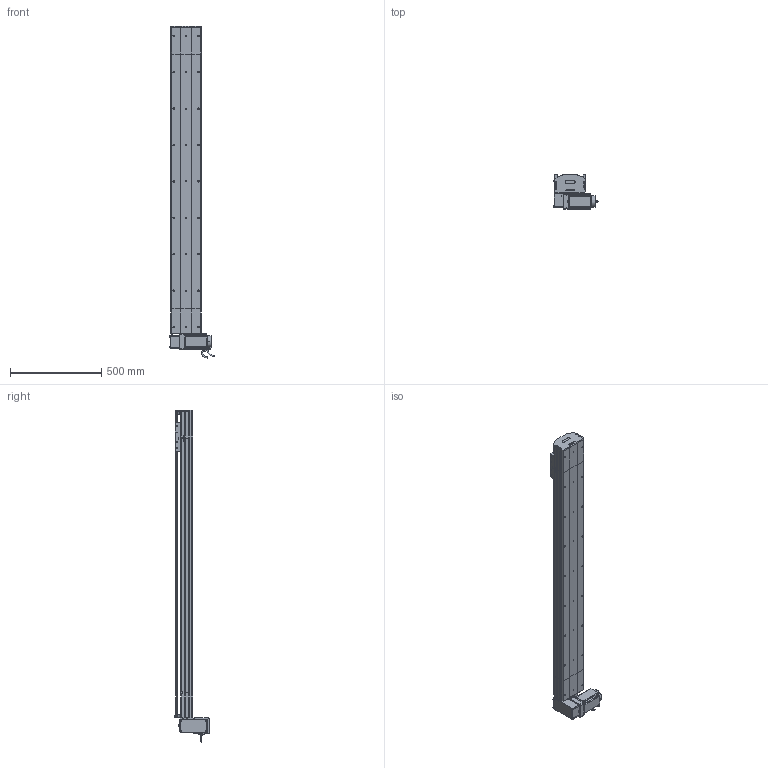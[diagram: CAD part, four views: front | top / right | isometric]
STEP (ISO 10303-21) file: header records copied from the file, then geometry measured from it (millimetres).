
FILE_DESCRIPTION (( 'STEP AP214' ), '1' );
FILE_NAME ('D17 TBH RU S1400.STEP', '2010-06-30T08:03:46', ( 'Christophe Gaillard' ), ( 'SGA' ), 'SwSTEP 2.0', 'SolidWorks 2010', '' );
FILE_SCHEMA (( 'AUTOMOTIVE_DESIGN' ));
Length unit declared in the file: millimetre
Products named in the file (40): guide D17; Chariot D17; chariot D17S_Default; Couroie tail D17B_Default; poulie tail_Default; plaque de  bout tail D17B_Default; vis M5 L25_Default; vis M5 L8 90°_Default; couvercle D17B_Default; Rail D17B; tete d''axe poulie D17B; corpl tail D17B_Default; Tail D17B_Default; Renvoi RU_Default; cache arbre D17_Default; vis M5 L70_Default; Conecteur_Default; Conecteur2_Default; codeur 90BLDC125-640; Vis M5 L16-2_Default; vis M5 L16_Default; Plaque racord D17_Default; corps 90BLDC125A-640; avant 90BLDC125A-640; Moteur motionking 90BLDC125A-640; cache D17_Default; couroie head D17_Default; poulie head_Default; vis M5 L5_Default; D17 TBH RU S1400; vis M5 L12_Default; corp D17B 1400_Default; Couroie+ rail D17 Course 1400 ; course 1400 D17B_Default; corpl head D17 _Default; Head RU D17B_Default; couvercle D17B course L1400_Default; Arbre+rail head D17B; plaque de  bout head D17B RU_Default; couvercle D17B head_Default
Assembly tree (70 placements, depth 4):
  D17 TBH RU S1400
    Head RU D17B_Default
      vis M5 L12_Default  x8
      Vis M5 L16-2_Default  x4
      vis M5 L25_Default  x2
      vis M5 L5_Default  x4
      vis M5 L70_Default  x4
      cache arbre D17_Default
      couvercle D17B head_Default
      corpl head D17 _Default
      Renvoi RU_Default
      vis M5 L16_Default  x2
      cache D17_Default  x2
      Plaque racord D17_Default
      poulie head_Default
      Moteur motionking 90BLDC125A-640
        codeur 90BLDC125-640
        avant 90BLDC125A-640
        Conecteur_Default
        Conecteur2_Default
        corps 90BLDC125A-640
      couroie head D17_Default
      Arbre+rail head D17B
      plaque de  bout head D17B RU_Default
    Tail D17B_Default
      poulie tail_Default
      Couroie tail D17B_Default
      vis M5 L12_Default  x4
      Rail D17B
      tete d''axe poulie D17B
      vis M5 L8 90°_Default  x2
      vis M5 L25_Default  x2
      corpl tail D17B_Default
      couvercle D17B_Default
      plaque de  bout tail D17B_Default
    chariot D17S_Default
      Chariot D17
      guide D17  x2
      vis M5 L12_Default  x4
    course 1400 D17B_Default
      couvercle D17B course L1400_Default
      corp D17B 1400_Default
      Couroie+ rail D17 Course 1400 
Bounding box: 245.2 x 188.65 x 1823.95 mm (x, y, z)
Volume: 11217004.1 mm3; surface area: 3172601.2 mm2
Topology: 94 solids, 94 shells, 2677 faces, 6733 edges, 4334 vertices
Faces by surface type: plane 1607, cylinder 757, bspline 136, cone 88, torus 85, sphere 4
Entity records: 83760 total; most frequent: CARTESIAN_POINT 24801, ORIENTED_EDGE 10238, DIRECTION 9724, EDGE_CURVE 5119, LINE 3422, VECTOR 3422, VERTEX_POINT 3358, AXIS2_PLACEMENT_3D 3151
